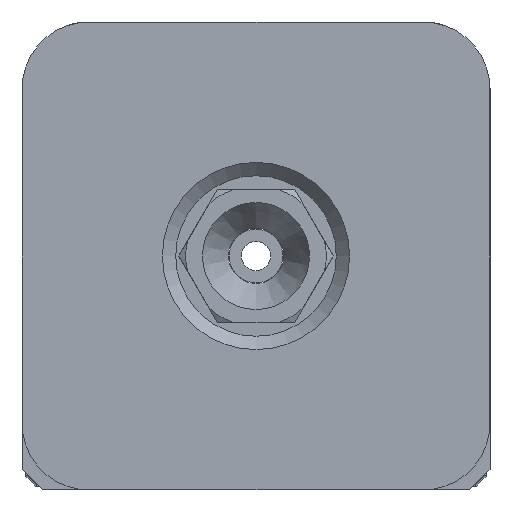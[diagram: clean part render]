
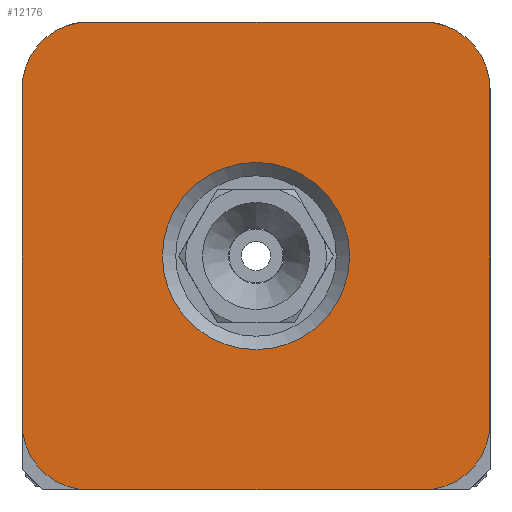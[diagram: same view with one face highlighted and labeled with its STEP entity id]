
A CAD part, front view. The second image highlights one B-rep face of the part: STEP entity #12176.
In plain terms, the highlighted planar face has unit normal (0, -1, 0) as drawn and (0, 0, 1) by its records, which use the part's own axes.
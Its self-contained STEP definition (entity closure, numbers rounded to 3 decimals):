
#659=PLANE('',#13089);
#1384=CIRCLE('',#13076,5.);
#1385=CIRCLE('',#13079,5.);
#1386=CIRCLE('',#13082,5.);
#1387=CIRCLE('',#13085,5.);
#1389=CIRCLE('',#13090,7.);
#2246=ORIENTED_EDGE('',*,*,#5513,.T.);
#2247=ORIENTED_EDGE('',*,*,#5497,.F.);
#2248=ORIENTED_EDGE('',*,*,#5511,.F.);
#2249=ORIENTED_EDGE('',*,*,#5509,.F.);
#2250=ORIENTED_EDGE('',*,*,#5507,.F.);
#2251=ORIENTED_EDGE('',*,*,#5505,.F.);
#2252=ORIENTED_EDGE('',*,*,#5503,.F.);
#2253=ORIENTED_EDGE('',*,*,#5501,.F.);
#2254=ORIENTED_EDGE('',*,*,#5499,.F.);
#5497=EDGE_CURVE('',#7186,#7187,#1384,.T.);
#5499=EDGE_CURVE('',#7187,#7188,#8180,.T.);
#5501=EDGE_CURVE('',#7188,#7189,#1385,.T.);
#5503=EDGE_CURVE('',#7189,#7190,#8183,.T.);
#5505=EDGE_CURVE('',#7190,#7191,#1386,.T.);
#5507=EDGE_CURVE('',#7191,#7192,#8186,.T.);
#5509=EDGE_CURVE('',#7192,#7193,#1387,.T.);
#5511=EDGE_CURVE('',#7193,#7186,#8189,.T.);
#5513=EDGE_CURVE('',#7195,#7195,#1389,.T.);
#7186=VERTEX_POINT('',#20769);
#7187=VERTEX_POINT('',#20771);
#7188=VERTEX_POINT('',#20775);
#7189=VERTEX_POINT('',#20779);
#7190=VERTEX_POINT('',#20783);
#7191=VERTEX_POINT('',#20787);
#7192=VERTEX_POINT('',#20791);
#7193=VERTEX_POINT('',#20795);
#7195=VERTEX_POINT('',#20804);
#8180=LINE('',#20774,#8773);
#8183=LINE('',#20782,#8776);
#8186=LINE('',#20790,#8779);
#8189=LINE('',#20798,#8782);
#8773=VECTOR('',#14381,1000.);
#8776=VECTOR('',#14390,1000.);
#8779=VECTOR('',#14399,1000.);
#8782=VECTOR('',#14408,1000.);
#9417=EDGE_LOOP('',(#2246));
#9418=EDGE_LOOP('',(#2247,#2248,#2249,#2250,#2251,#2252,#2253,#2254));
#10307=FACE_BOUND('',#9417,.T.);
#10308=FACE_BOUND('',#9418,.T.);
#12176=ADVANCED_FACE('',(#10307,#10308),#659,.F.);
#13076=AXIS2_PLACEMENT_3D('',#20770,#14376,#14377);
#13079=AXIS2_PLACEMENT_3D('',#20778,#14385,#14386);
#13082=AXIS2_PLACEMENT_3D('',#20786,#14394,#14395);
#13085=AXIS2_PLACEMENT_3D('',#20794,#14403,#14404);
#13089=AXIS2_PLACEMENT_3D('',#20802,#14413,#14414);
#13090=AXIS2_PLACEMENT_3D('',#20803,#14415,#14416);
#14376=DIRECTION('',(0.,0.,-1.));
#14377=DIRECTION('',(0.,-1.,0.));
#14381=DIRECTION('',(0.,-1.,0.));
#14385=DIRECTION('',(0.,0.,-1.));
#14386=DIRECTION('',(0.,1.,0.));
#14390=DIRECTION('',(-1.,0.,0.));
#14394=DIRECTION('',(0.,0.,-1.));
#14395=DIRECTION('',(0.,-1.,0.));
#14399=DIRECTION('',(0.,1.,0.));
#14403=DIRECTION('',(0.,0.,-1.));
#14404=DIRECTION('',(0.,-1.,0.));
#14408=DIRECTION('',(1.,0.,0.));
#14413=DIRECTION('',(0.,0.,-1.));
#14414=DIRECTION('',(-1.,0.,0.));
#14415=DIRECTION('',(0.,0.,-1.));
#14416=DIRECTION('',(-1.,0.,0.));
#20769=CARTESIAN_POINT('',(12.5,17.5,14.));
#20770=CARTESIAN_POINT('',(12.5,12.5,14.));
#20771=CARTESIAN_POINT('',(17.5,12.5,14.));
#20774=CARTESIAN_POINT('',(17.5,12.5,14.));
#20775=CARTESIAN_POINT('',(17.5,-12.5,14.));
#20778=CARTESIAN_POINT('',(12.5,-12.5,14.));
#20779=CARTESIAN_POINT('',(12.5,-17.5,14.));
#20782=CARTESIAN_POINT('',(12.5,-17.5,14.));
#20783=CARTESIAN_POINT('',(-12.5,-17.5,14.));
#20786=CARTESIAN_POINT('',(-12.5,-12.5,14.));
#20787=CARTESIAN_POINT('',(-17.5,-12.5,14.));
#20790=CARTESIAN_POINT('',(-17.5,-12.5,14.));
#20791=CARTESIAN_POINT('',(-17.5,12.5,14.));
#20794=CARTESIAN_POINT('',(-12.5,12.5,14.));
#20795=CARTESIAN_POINT('',(-12.5,17.5,14.));
#20798=CARTESIAN_POINT('',(-12.5,17.5,14.));
#20802=CARTESIAN_POINT('',(12.5,12.5,14.));
#20803=CARTESIAN_POINT('',(0.,0.,14.));
#20804=CARTESIAN_POINT('',(-7.,0.,14.));
